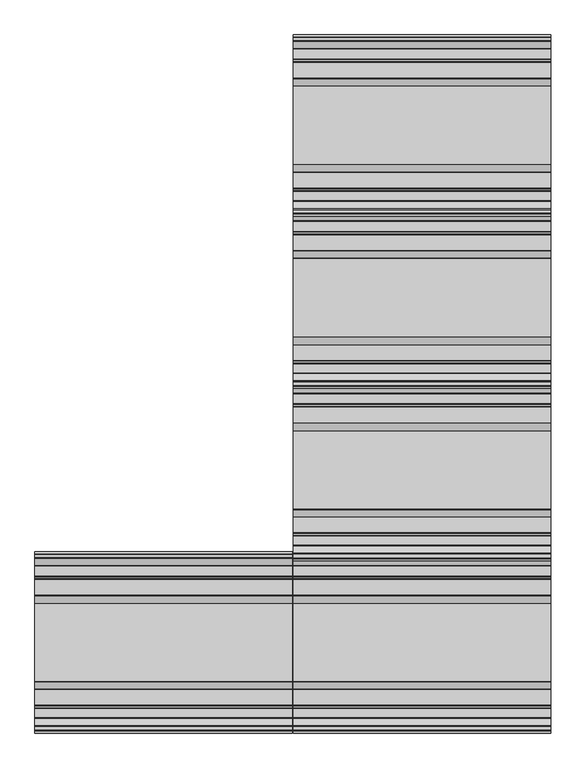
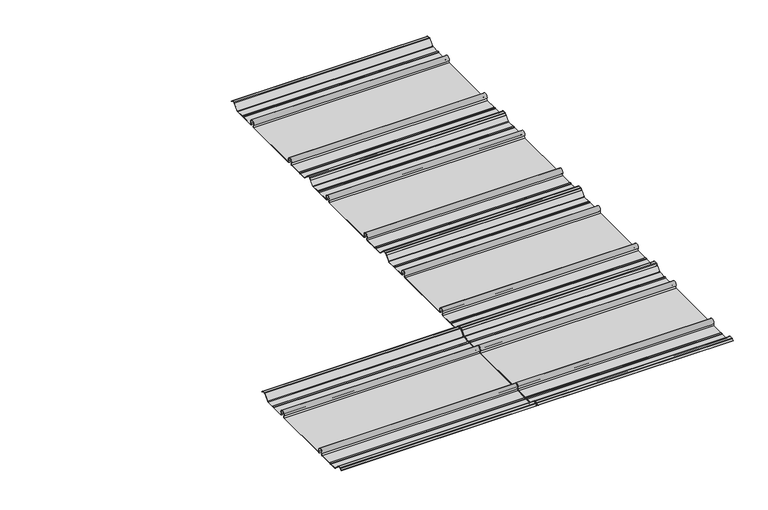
"""IFC4 building model written with IfcOpenShell, lengths in millimetres: proxy geometry, Xlath : Xlath."""

from ifc_helpers import new_model, si_unit, point, frame, frame_2d, origin, place, context, project, spatial, polyline, circle_curve, trimmed, segment, composite_curve, outline, extrude, source, transform, mapped, element, save


def generic_models_f6742b10(model_context):
    return source(origin(), model_context, "Body", "SweptSolid", [
        extrude(outline(composite_curve([segment(polyline([(-816.821536, 17.692427), (-812.8, 13.8209287), (-813.3628134, 13.2581153), (-817.6173305, 17.3539026)]), True, "CONTINUOUS"), segment(trimmed(circle_curve(frame_2d((-819.4934261, 15.4051)), 2.7051), [point((-817.6173305, 17.3539026))], [point((-819.4934261, 18.1102))], True, "CARTESIAN"), True, "CONTINUOUS"), segment(polyline([(-819.4934261, 18.1102), (-826.6817457, 18.1102)]), True, "CONTINUOUS"), segment(trimmed(circle_curve(frame_2d((-826.6817457, 15.4051)), 2.7051), [point((-826.6817457, 18.1102))], [point((-828.6059623, 17.3064039))], True, "CARTESIAN"), True, "CONTINUOUS"), segment(polyline([(-828.6059623, 17.3064039), (-844.7741011, 0.9434226)]), True, "CONTINUOUS"), segment(trimmed(circle_curve(frame_2d((-847.0325712, 3.175)), 3.175), [point((-844.7741011, 0.9434226))], [point((-847.0325712, 0.0))], False, "CARTESIAN"), True, "CONTINUOUS"), segment(polyline([(-847.0325712, 0.0), (-870.1486405, 0.0)]), True, "CONTINUOUS"), segment(trimmed(circle_curve(frame_2d((-870.1486405, 3.175)), 3.175), [point((-870.1486405, 0.0))], [point((-872.1419174, 0.70367))], False, "CARTESIAN"), True, "CONTINUOUS"), segment(trimmed(circle_curve(frame_2d((-874.1351943, -1.7676601)), 3.175), [point((-872.1419174, 0.70367))], [point((-876.1284712, 0.70367))], True, "CARTESIAN"), True, "CONTINUOUS"), segment(trimmed(circle_curve(frame_2d((-878.1217481, 3.175)), 3.175), [point((-876.1284712, 0.70367))], [point((-878.1217481, 0.0))], False, "CARTESIAN"), True, "CONTINUOUS"), segment(polyline([(-878.1217481, 0.0), (-915.39972, 0.0)]), True, "CONTINUOUS"), segment(trimmed(circle_curve(frame_2d((-915.39972, 3.3362305)), 3.3362305), [point((-915.39972, 0.0))], [point((-918.0911698, 5.3076593))], False, "CARTESIAN"), True, "CONTINUOUS"), segment(trimmed(circle_curve(frame_2d((-924.6031627, 10.0775533)), 8.0720469), [point((-918.0911698, 5.3076593))], [point((-931.1151555, 5.3076593))], True, "CARTESIAN"), True, "CONTINUOUS"), segment(trimmed(circle_curve(frame_2d((-933.8066054, 3.3362305)), 3.3362305), [point((-931.1151555, 5.3076593))], [point((-933.8066054, 0.0))], False, "CARTESIAN"), True, "CONTINUOUS"), segment(polyline([(-933.8066054, 0.0), (-1118.8308946, 0.0)]), True, "CONTINUOUS"), segment(trimmed(circle_curve(frame_2d((-1118.8308946, 3.3362305)), 3.3362305), [point((-1118.8308946, 0.0))], [point((-1121.5223445, 5.3076593))], False, "CARTESIAN"), True, "CONTINUOUS"), segment(trimmed(circle_curve(frame_2d((-1128.0343373, 10.0775533)), 8.0720469), [point((-1121.5223445, 5.3076593))], [point((-1134.5463302, 5.3076593))], True, "CARTESIAN"), True, "CONTINUOUS"), segment(trimmed(circle_curve(frame_2d((-1137.23778, 3.3362305)), 3.3362305), [point((-1134.5463302, 5.3076593))], [point((-1137.23778, 0.0))], False, "CARTESIAN"), True, "CONTINUOUS"), segment(polyline([(-1137.23778, 0.0), (-1174.5157519, 0.0)]), True, "CONTINUOUS"), segment(trimmed(circle_curve(frame_2d((-1174.5157519, 3.175)), 3.175), [point((-1174.5157519, 0.0))], [point((-1176.5090288, 0.70367))], False, "CARTESIAN"), True, "CONTINUOUS"), segment(trimmed(circle_curve(frame_2d((-1178.5023057, -1.7676601)), 3.175), [point((-1176.5090288, 0.70367))], [point((-1180.4955826, 0.70367))], True, "CARTESIAN"), True, "CONTINUOUS"), segment(trimmed(circle_curve(frame_2d((-1182.4888595, 3.175)), 3.175), [point((-1180.4955826, 0.70367))], [point((-1182.4888595, 0.0))], False, "CARTESIAN"), True, "CONTINUOUS"), segment(polyline([(-1182.4888595, 0.0), (-1203.8183557, 0.0)]), True, "CONTINUOUS"), segment(trimmed(circle_curve(frame_2d((-1203.8183557, 3.175)), 3.175), [point((-1203.8183557, 0.0))], [point((-1206.0768259, 0.9434226))], False, "CARTESIAN"), True, "CONTINUOUS"), segment(polyline([(-1206.0768259, 0.9434226), (-1222.7092693, 17.7763039)]), True, "CONTINUOUS"), segment(trimmed(circle_curve(frame_2d((-1224.6334859, 15.875)), 2.7051), [point((-1222.7092693, 17.7763039))], [point((-1224.6334859, 18.5801))], True, "CARTESIAN"), True, "CONTINUOUS"), segment(polyline([(-1224.6334859, 18.5801), (-1233.1440739, 18.5801)]), True, "CONTINUOUS"), segment(trimmed(circle_curve(frame_2d((-1233.1440739, 15.875)), 2.7051), [point((-1233.1440739, 18.5801))], [point((-1235.0201695, 17.8238026))], True, "CARTESIAN"), True, "CONTINUOUS"), segment(polyline([(-1235.0201695, 17.8238026), (-1239.2855845, 13.717524), (-1239.8483979, 14.2803374), (-1235.815964, 18.162327)]), True, "CONTINUOUS"), segment(trimmed(circle_curve(frame_2d((-1233.6139739, 15.875)), 3.175), [point((-1235.815964, 18.162327))], [point((-1233.6139739, 19.05))], False, "CARTESIAN"), True, "CONTINUOUS"), segment(polyline([(-1233.6139739, 19.05), (-1224.6334859, 19.05)]), True, "CONTINUOUS"), segment(trimmed(circle_curve(frame_2d((-1224.6334859, 15.875)), 3.175), [point((-1224.6334859, 19.05))], [point((-1222.3750157, 18.1065774))], False, "CARTESIAN"), True, "CONTINUOUS"), segment(polyline([(-1222.3750157, 18.1065774), (-1205.7425723, 1.2736961)]), True, "CONTINUOUS"), segment(trimmed(circle_curve(frame_2d((-1203.8183557, 3.175)), 2.7051), [point((-1205.7425723, 1.2736961))], [point((-1203.8183557, 0.4699))], True, "CARTESIAN"), True, "CONTINUOUS"), segment(polyline([(-1203.8183557, 0.4699), (-1182.6514296, 0.4699)]), True, "CONTINUOUS"), segment(trimmed(circle_curve(frame_2d((-1182.6514296, 3.6449)), 3.175), [point((-1182.6514296, 0.4699))], [point((-1180.7198077, 1.1250862))], True, "CARTESIAN"), True, "CONTINUOUS"), segment(trimmed(circle_curve(frame_2d((-1178.5023057, -1.7676601)), 3.6449), [point((-1180.7198077, 1.1250862))], [point((-1176.2848037, 1.1250862))], False, "CARTESIAN"), True, "CONTINUOUS"), segment(trimmed(circle_curve(frame_2d((-1174.3531818, 3.6449)), 3.175), [point((-1176.2848037, 1.1250862))], [point((-1174.3531818, 0.4699))], True, "CARTESIAN"), True, "CONTINUOUS"), segment(polyline([(-1174.3531818, 0.4699), (-1137.23778, 0.4699)]), True, "CONTINUOUS"), segment(trimmed(circle_curve(frame_2d((-1137.23778, 3.3362305)), 2.8663305), [point((-1137.23778, 0.4699))], [point((-1134.9254144, 5.0299883))], True, "CARTESIAN"), True, "CONTINUOUS"), segment(trimmed(circle_curve(frame_2d((-1128.0343373, 10.0775533)), 8.5419469), [point((-1134.9254144, 5.0299883))], [point((-1121.1432603, 5.0299883))], False, "CARTESIAN"), True, "CONTINUOUS"), segment(trimmed(circle_curve(frame_2d((-1118.8308946, 3.3362305)), 2.8663305), [point((-1121.1432603, 5.0299883))], [point((-1118.8308946, 0.4699))], True, "CARTESIAN"), True, "CONTINUOUS"), segment(polyline([(-1118.8308946, 0.4699), (-933.8066054, 0.4699)]), True, "CONTINUOUS"), segment(trimmed(circle_curve(frame_2d((-933.8066054, 3.3362305)), 2.8663305), [point((-933.8066054, 0.4699))], [point((-931.4942397, 5.0299883))], True, "CARTESIAN"), True, "CONTINUOUS"), segment(trimmed(circle_curve(frame_2d((-924.6031627, 10.0775533)), 8.5419469), [point((-931.4942397, 5.0299883))], [point((-917.7120856, 5.0299883))], False, "CARTESIAN"), True, "CONTINUOUS"), segment(trimmed(circle_curve(frame_2d((-915.39972, 3.3362305)), 2.8663305), [point((-917.7120856, 5.0299883))], [point((-915.39972, 0.4699))], True, "CARTESIAN"), True, "CONTINUOUS"), segment(polyline([(-915.39972, 0.4699), (-878.2843182, 0.4699)]), True, "CONTINUOUS"), segment(trimmed(circle_curve(frame_2d((-878.2843182, 3.6449)), 3.175), [point((-878.2843182, 0.4699))], [point((-876.3526963, 1.1250862))], True, "CARTESIAN"), True, "CONTINUOUS"), segment(trimmed(circle_curve(frame_2d((-874.1351943, -1.7676601)), 3.6449), [point((-876.3526963, 1.1250862))], [point((-871.9176923, 1.1250862))], False, "CARTESIAN"), True, "CONTINUOUS"), segment(trimmed(circle_curve(frame_2d((-869.9860704, 3.6449)), 3.175), [point((-871.9176923, 1.1250862))], [point((-869.9860704, 0.4699))], True, "CARTESIAN"), True, "CONTINUOUS"), segment(polyline([(-869.9860704, 0.4699), (-847.0325712, 0.4699)]), True, "CONTINUOUS"), segment(trimmed(circle_curve(frame_2d((-847.0325712, 3.175)), 2.7051), [point((-847.0325712, 0.4699))], [point((-845.1083547, 1.2736961))], True, "CARTESIAN"), True, "CONTINUOUS"), segment(polyline([(-845.1083547, 1.2736961), (-828.9402159, 17.6366774)]), True, "CONTINUOUS"), segment(trimmed(circle_curve(frame_2d((-826.6817457, 15.4051)), 3.175), [point((-828.9402159, 17.6366774))], [point((-826.6817457, 18.5801))], False, "CARTESIAN"), True, "CONTINUOUS"), segment(polyline([(-826.6817457, 18.5801), (-819.0235261, 18.5801)]), True, "CONTINUOUS"), segment(trimmed(circle_curve(frame_2d((-819.0235261, 15.4051)), 3.175), [point((-819.0235261, 18.5801))], [point((-816.821536, 17.692427))], False, "CARTESIAN"), True, "CONTINUOUS")], self_intersect=False)), frame((1219.2, 0.0, 0.0), z_axis=(1.0, 0.0, 0.0), x_axis=(0.0, 1.0, 0.0)), (0.0, 0.0, 1.0), 606.425),
        extrude(outline(composite_curve([segment(polyline([(-410.421536, 17.692427), (-406.4, 13.8209287), (-406.9628134, 13.2581153), (-411.2173305, 17.3539026)]), True, "CONTINUOUS"), segment(trimmed(circle_curve(frame_2d((-413.0934261, 15.4051)), 2.7051), [point((-411.2173305, 17.3539026))], [point((-413.0934261, 18.1102))], True, "CARTESIAN"), True, "CONTINUOUS"), segment(polyline([(-413.0934261, 18.1102), (-420.2817457, 18.1102)]), True, "CONTINUOUS"), segment(trimmed(circle_curve(frame_2d((-420.2817457, 15.4051)), 2.7051), [point((-420.2817457, 18.1102))], [point((-422.2059623, 17.3064039))], True, "CARTESIAN"), True, "CONTINUOUS"), segment(polyline([(-422.2059623, 17.3064039), (-438.3741011, 0.9434226)]), True, "CONTINUOUS"), segment(trimmed(circle_curve(frame_2d((-440.6325712, 3.175)), 3.175), [point((-438.3741011, 0.9434226))], [point((-440.6325712, 0.0))], False, "CARTESIAN"), True, "CONTINUOUS"), segment(polyline([(-440.6325712, 0.0), (-463.7486405, 0.0)]), True, "CONTINUOUS"), segment(trimmed(circle_curve(frame_2d((-463.7486405, 3.175)), 3.175), [point((-463.7486405, 0.0))], [point((-465.7419174, 0.70367))], False, "CARTESIAN"), True, "CONTINUOUS"), segment(trimmed(circle_curve(frame_2d((-467.7351943, -1.7676601)), 3.175), [point((-465.7419174, 0.70367))], [point((-469.7284712, 0.70367))], True, "CARTESIAN"), True, "CONTINUOUS"), segment(trimmed(circle_curve(frame_2d((-471.7217481, 3.175)), 3.175), [point((-469.7284712, 0.70367))], [point((-471.7217481, 0.0))], False, "CARTESIAN"), True, "CONTINUOUS"), segment(polyline([(-471.7217481, 0.0), (-508.99972, 0.0)]), True, "CONTINUOUS"), segment(trimmed(circle_curve(frame_2d((-508.99972, 3.3362305)), 3.3362305), [point((-508.99972, 0.0))], [point((-511.6911698, 5.3076593))], False, "CARTESIAN"), True, "CONTINUOUS"), segment(trimmed(circle_curve(frame_2d((-518.2031627, 10.0775533)), 8.0720469), [point((-511.6911698, 5.3076593))], [point((-524.7151555, 5.3076593))], True, "CARTESIAN"), True, "CONTINUOUS"), segment(trimmed(circle_curve(frame_2d((-527.4066054, 3.3362305)), 3.3362305), [point((-524.7151555, 5.3076593))], [point((-527.4066054, 0.0))], False, "CARTESIAN"), True, "CONTINUOUS"), segment(polyline([(-527.4066054, 0.0), (-712.4308946, 0.0)]), True, "CONTINUOUS"), segment(trimmed(circle_curve(frame_2d((-712.4308946, 3.3362305)), 3.3362305), [point((-712.4308946, 0.0))], [point((-715.1223445, 5.3076593))], False, "CARTESIAN"), True, "CONTINUOUS"), segment(trimmed(circle_curve(frame_2d((-721.6343373, 10.0775533)), 8.0720469), [point((-715.1223445, 5.3076593))], [point((-728.1463302, 5.3076593))], True, "CARTESIAN"), True, "CONTINUOUS"), segment(trimmed(circle_curve(frame_2d((-730.83778, 3.3362305)), 3.3362305), [point((-728.1463302, 5.3076593))], [point((-730.83778, 0.0))], False, "CARTESIAN"), True, "CONTINUOUS"), segment(polyline([(-730.83778, 0.0), (-768.1157519, 0.0)]), True, "CONTINUOUS"), segment(trimmed(circle_curve(frame_2d((-768.1157519, 3.175)), 3.175), [point((-768.1157519, 0.0))], [point((-770.1090288, 0.70367))], False, "CARTESIAN"), True, "CONTINUOUS"), segment(trimmed(circle_curve(frame_2d((-772.1023057, -1.7676601)), 3.175), [point((-770.1090288, 0.70367))], [point((-774.0955826, 0.70367))], True, "CARTESIAN"), True, "CONTINUOUS"), segment(trimmed(circle_curve(frame_2d((-776.0888595, 3.175)), 3.175), [point((-774.0955826, 0.70367))], [point((-776.0888595, 0.0))], False, "CARTESIAN"), True, "CONTINUOUS"), segment(polyline([(-776.0888595, 0.0), (-797.4183557, 0.0)]), True, "CONTINUOUS"), segment(trimmed(circle_curve(frame_2d((-797.4183557, 3.175)), 3.175), [point((-797.4183557, 0.0))], [point((-799.6768259, 0.9434226))], False, "CARTESIAN"), True, "CONTINUOUS"), segment(polyline([(-799.6768259, 0.9434226), (-816.3092693, 17.7763039)]), True, "CONTINUOUS"), segment(trimmed(circle_curve(frame_2d((-818.2334859, 15.875)), 2.7051), [point((-816.3092693, 17.7763039))], [point((-818.2334859, 18.5801))], True, "CARTESIAN"), True, "CONTINUOUS"), segment(polyline([(-818.2334859, 18.5801), (-826.7440739, 18.5801)]), True, "CONTINUOUS"), segment(trimmed(circle_curve(frame_2d((-826.7440739, 15.875)), 2.7051), [point((-826.7440739, 18.5801))], [point((-828.6201695, 17.8238026))], True, "CARTESIAN"), True, "CONTINUOUS"), segment(polyline([(-828.6201695, 17.8238026), (-832.8855845, 13.717524), (-833.4483979, 14.2803374), (-829.415964, 18.162327)]), True, "CONTINUOUS"), segment(trimmed(circle_curve(frame_2d((-827.2139739, 15.875)), 3.175), [point((-829.415964, 18.162327))], [point((-827.2139739, 19.05))], False, "CARTESIAN"), True, "CONTINUOUS"), segment(polyline([(-827.2139739, 19.05), (-818.2334859, 19.05)]), True, "CONTINUOUS"), segment(trimmed(circle_curve(frame_2d((-818.2334859, 15.875)), 3.175), [point((-818.2334859, 19.05))], [point((-815.9750157, 18.1065774))], False, "CARTESIAN"), True, "CONTINUOUS"), segment(polyline([(-815.9750157, 18.1065774), (-799.3425723, 1.2736961)]), True, "CONTINUOUS"), segment(trimmed(circle_curve(frame_2d((-797.4183557, 3.175)), 2.7051), [point((-799.3425723, 1.2736961))], [point((-797.4183557, 0.4699))], True, "CARTESIAN"), True, "CONTINUOUS"), segment(polyline([(-797.4183557, 0.4699), (-776.2514296, 0.4699)]), True, "CONTINUOUS"), segment(trimmed(circle_curve(frame_2d((-776.2514296, 3.6449)), 3.175), [point((-776.2514296, 0.4699))], [point((-774.3198077, 1.1250862))], True, "CARTESIAN"), True, "CONTINUOUS"), segment(trimmed(circle_curve(frame_2d((-772.1023057, -1.7676601)), 3.6449), [point((-774.3198077, 1.1250862))], [point((-769.8848037, 1.1250862))], False, "CARTESIAN"), True, "CONTINUOUS"), segment(trimmed(circle_curve(frame_2d((-767.9531818, 3.6449)), 3.175), [point((-769.8848037, 1.1250862))], [point((-767.9531818, 0.4699))], True, "CARTESIAN"), True, "CONTINUOUS"), segment(polyline([(-767.9531818, 0.4699), (-730.83778, 0.4699)]), True, "CONTINUOUS"), segment(trimmed(circle_curve(frame_2d((-730.83778, 3.3362305)), 2.8663305), [point((-730.83778, 0.4699))], [point((-728.5254144, 5.0299883))], True, "CARTESIAN"), True, "CONTINUOUS"), segment(trimmed(circle_curve(frame_2d((-721.6343373, 10.0775533)), 8.5419469), [point((-728.5254144, 5.0299883))], [point((-714.7432603, 5.0299883))], False, "CARTESIAN"), True, "CONTINUOUS"), segment(trimmed(circle_curve(frame_2d((-712.4308946, 3.3362305)), 2.8663305), [point((-714.7432603, 5.0299883))], [point((-712.4308946, 0.4699))], True, "CARTESIAN"), True, "CONTINUOUS"), segment(polyline([(-712.4308946, 0.4699), (-527.4066054, 0.4699)]), True, "CONTINUOUS"), segment(trimmed(circle_curve(frame_2d((-527.4066054, 3.3362305)), 2.8663305), [point((-527.4066054, 0.4699))], [point((-525.0942397, 5.0299883))], True, "CARTESIAN"), True, "CONTINUOUS"), segment(trimmed(circle_curve(frame_2d((-518.2031627, 10.0775533)), 8.5419469), [point((-525.0942397, 5.0299883))], [point((-511.3120856, 5.0299883))], False, "CARTESIAN"), True, "CONTINUOUS"), segment(trimmed(circle_curve(frame_2d((-508.99972, 3.3362305)), 2.8663305), [point((-511.3120856, 5.0299883))], [point((-508.99972, 0.4699))], True, "CARTESIAN"), True, "CONTINUOUS"), segment(polyline([(-508.99972, 0.4699), (-471.8843182, 0.4699)]), True, "CONTINUOUS"), segment(trimmed(circle_curve(frame_2d((-471.8843182, 3.6449)), 3.175), [point((-471.8843182, 0.4699))], [point((-469.9526963, 1.1250862))], True, "CARTESIAN"), True, "CONTINUOUS"), segment(trimmed(circle_curve(frame_2d((-467.7351943, -1.7676601)), 3.6449), [point((-469.9526963, 1.1250862))], [point((-465.5176923, 1.1250862))], False, "CARTESIAN"), True, "CONTINUOUS"), segment(trimmed(circle_curve(frame_2d((-463.5860704, 3.6449)), 3.175), [point((-465.5176923, 1.1250862))], [point((-463.5860704, 0.4699))], True, "CARTESIAN"), True, "CONTINUOUS"), segment(polyline([(-463.5860704, 0.4699), (-440.6325712, 0.4699)]), True, "CONTINUOUS"), segment(trimmed(circle_curve(frame_2d((-440.6325712, 3.175)), 2.7051), [point((-440.6325712, 0.4699))], [point((-438.7083547, 1.2736961))], True, "CARTESIAN"), True, "CONTINUOUS"), segment(polyline([(-438.7083547, 1.2736961), (-422.5402159, 17.6366774)]), True, "CONTINUOUS"), segment(trimmed(circle_curve(frame_2d((-420.2817457, 15.4051)), 3.175), [point((-422.5402159, 17.6366774))], [point((-420.2817457, 18.5801))], False, "CARTESIAN"), True, "CONTINUOUS"), segment(polyline([(-420.2817457, 18.5801), (-412.6235261, 18.5801)]), True, "CONTINUOUS"), segment(trimmed(circle_curve(frame_2d((-412.6235261, 15.4051)), 3.175), [point((-412.6235261, 18.5801))], [point((-410.421536, 17.692427))], False, "CARTESIAN"), True, "CONTINUOUS")], self_intersect=False)), frame((1219.2, 0.0, 0.0), z_axis=(1.0, 0.0, 0.0), x_axis=(0.0, 1.0, 0.0)), (0.0, 0.0, 1.0), 606.425),
        extrude(outline(composite_curve([segment(polyline([(-4.021536, 17.692427), (0.0, 13.8209287), (-0.5628134, 13.2581153), (-4.8173305, 17.3539026)]), True, "CONTINUOUS"), segment(trimmed(circle_curve(frame_2d((-6.6934261, 15.4051)), 2.7051), [point((-4.8173305, 17.3539026))], [point((-6.6934261, 18.1102))], True, "CARTESIAN"), True, "CONTINUOUS"), segment(polyline([(-6.6934261, 18.1102), (-13.8817457, 18.1102)]), True, "CONTINUOUS"), segment(trimmed(circle_curve(frame_2d((-13.8817457, 15.4051)), 2.7051), [point((-13.8817457, 18.1102))], [point((-15.8059623, 17.3064039))], True, "CARTESIAN"), True, "CONTINUOUS"), segment(polyline([(-15.8059623, 17.3064039), (-31.9741011, 0.9434226)]), True, "CONTINUOUS"), segment(trimmed(circle_curve(frame_2d((-34.2325712, 3.175)), 3.175), [point((-31.9741011, 0.9434226))], [point((-34.2325712, 0.0))], False, "CARTESIAN"), True, "CONTINUOUS"), segment(polyline([(-34.2325712, 0.0), (-57.3486405, 0.0)]), True, "CONTINUOUS"), segment(trimmed(circle_curve(frame_2d((-57.3486405, 3.175)), 3.175), [point((-57.3486405, 0.0))], [point((-59.3419174, 0.70367))], False, "CARTESIAN"), True, "CONTINUOUS"), segment(trimmed(circle_curve(frame_2d((-61.3351943, -1.7676601)), 3.175), [point((-59.3419174, 0.70367))], [point((-63.3284712, 0.70367))], True, "CARTESIAN"), True, "CONTINUOUS"), segment(trimmed(circle_curve(frame_2d((-65.3217481, 3.175)), 3.175), [point((-63.3284712, 0.70367))], [point((-65.3217481, 0.0))], False, "CARTESIAN"), True, "CONTINUOUS"), segment(polyline([(-65.3217481, 0.0), (-102.59972, 0.0)]), True, "CONTINUOUS"), segment(trimmed(circle_curve(frame_2d((-102.59972, 3.3362305)), 3.3362305), [point((-102.59972, 0.0))], [point((-105.2911698, 5.3076593))], False, "CARTESIAN"), True, "CONTINUOUS"), segment(trimmed(circle_curve(frame_2d((-111.8031627, 10.0775533)), 8.0720469), [point((-105.2911698, 5.3076593))], [point((-118.3151555, 5.3076593))], True, "CARTESIAN"), True, "CONTINUOUS"), segment(trimmed(circle_curve(frame_2d((-121.0066054, 3.3362305)), 3.3362305), [point((-118.3151555, 5.3076593))], [point((-121.0066054, 0.0))], False, "CARTESIAN"), True, "CONTINUOUS"), segment(polyline([(-121.0066054, 0.0), (-306.0308946, 0.0)]), True, "CONTINUOUS"), segment(trimmed(circle_curve(frame_2d((-306.0308946, 3.3362305)), 3.3362305), [point((-306.0308946, 0.0))], [point((-308.7223445, 5.3076593))], False, "CARTESIAN"), True, "CONTINUOUS"), segment(trimmed(circle_curve(frame_2d((-315.2343373, 10.0775533)), 8.0720469), [point((-308.7223445, 5.3076593))], [point((-321.7463302, 5.3076593))], True, "CARTESIAN"), True, "CONTINUOUS"), segment(trimmed(circle_curve(frame_2d((-324.43778, 3.3362305)), 3.3362305), [point((-321.7463302, 5.3076593))], [point((-324.43778, 0.0))], False, "CARTESIAN"), True, "CONTINUOUS"), segment(polyline([(-324.43778, 0.0), (-361.7157519, 0.0)]), True, "CONTINUOUS"), segment(trimmed(circle_curve(frame_2d((-361.7157519, 3.175)), 3.175), [point((-361.7157519, 0.0))], [point((-363.7090288, 0.70367))], False, "CARTESIAN"), True, "CONTINUOUS"), segment(trimmed(circle_curve(frame_2d((-365.7023057, -1.7676601)), 3.175), [point((-363.7090288, 0.70367))], [point((-367.6955826, 0.70367))], True, "CARTESIAN"), True, "CONTINUOUS"), segment(trimmed(circle_curve(frame_2d((-369.6888595, 3.175)), 3.175), [point((-367.6955826, 0.70367))], [point((-369.6888595, 0.0))], False, "CARTESIAN"), True, "CONTINUOUS"), segment(polyline([(-369.6888595, 0.0), (-391.0183557, 0.0)]), True, "CONTINUOUS"), segment(trimmed(circle_curve(frame_2d((-391.0183557, 3.175)), 3.175), [point((-391.0183557, 0.0))], [point((-393.2768259, 0.9434226))], False, "CARTESIAN"), True, "CONTINUOUS"), segment(polyline([(-393.2768259, 0.9434226), (-409.9092693, 17.7763039)]), True, "CONTINUOUS"), segment(trimmed(circle_curve(frame_2d((-411.8334859, 15.875)), 2.7051), [point((-409.9092693, 17.7763039))], [point((-411.8334859, 18.5801))], True, "CARTESIAN"), True, "CONTINUOUS"), segment(polyline([(-411.8334859, 18.5801), (-420.3440739, 18.5801)]), True, "CONTINUOUS"), segment(trimmed(circle_curve(frame_2d((-420.3440739, 15.875)), 2.7051), [point((-420.3440739, 18.5801))], [point((-422.2201695, 17.8238026))], True, "CARTESIAN"), True, "CONTINUOUS"), segment(polyline([(-422.2201695, 17.8238026), (-426.4855845, 13.717524), (-427.0483979, 14.2803374), (-423.015964, 18.162327)]), True, "CONTINUOUS"), segment(trimmed(circle_curve(frame_2d((-420.8139739, 15.875)), 3.175), [point((-423.015964, 18.162327))], [point((-420.8139739, 19.05))], False, "CARTESIAN"), True, "CONTINUOUS"), segment(polyline([(-420.8139739, 19.05), (-411.8334859, 19.05)]), True, "CONTINUOUS"), segment(trimmed(circle_curve(frame_2d((-411.8334859, 15.875)), 3.175), [point((-411.8334859, 19.05))], [point((-409.5750157, 18.1065774))], False, "CARTESIAN"), True, "CONTINUOUS"), segment(polyline([(-409.5750157, 18.1065774), (-392.9425723, 1.2736961)]), True, "CONTINUOUS"), segment(trimmed(circle_curve(frame_2d((-391.0183557, 3.175)), 2.7051), [point((-392.9425723, 1.2736961))], [point((-391.0183557, 0.4699))], True, "CARTESIAN"), True, "CONTINUOUS"), segment(polyline([(-391.0183557, 0.4699), (-369.8514296, 0.4699)]), True, "CONTINUOUS"), segment(trimmed(circle_curve(frame_2d((-369.8514296, 3.6449)), 3.175), [point((-369.8514296, 0.4699))], [point((-367.9198077, 1.1250862))], True, "CARTESIAN"), True, "CONTINUOUS"), segment(trimmed(circle_curve(frame_2d((-365.7023057, -1.7676601)), 3.6449), [point((-367.9198077, 1.1250862))], [point((-363.4848037, 1.1250862))], False, "CARTESIAN"), True, "CONTINUOUS"), segment(trimmed(circle_curve(frame_2d((-361.5531818, 3.6449)), 3.175), [point((-363.4848037, 1.1250862))], [point((-361.5531818, 0.4699))], True, "CARTESIAN"), True, "CONTINUOUS"), segment(polyline([(-361.5531818, 0.4699), (-324.43778, 0.4699)]), True, "CONTINUOUS"), segment(trimmed(circle_curve(frame_2d((-324.43778, 3.3362305)), 2.8663305), [point((-324.43778, 0.4699))], [point((-322.1254144, 5.0299883))], True, "CARTESIAN"), True, "CONTINUOUS"), segment(trimmed(circle_curve(frame_2d((-315.2343373, 10.0775533)), 8.5419469), [point((-322.1254144, 5.0299883))], [point((-308.3432603, 5.0299883))], False, "CARTESIAN"), True, "CONTINUOUS"), segment(trimmed(circle_curve(frame_2d((-306.0308946, 3.3362305)), 2.8663305), [point((-308.3432603, 5.0299883))], [point((-306.0308946, 0.4699))], True, "CARTESIAN"), True, "CONTINUOUS"), segment(polyline([(-306.0308946, 0.4699), (-121.0066054, 0.4699)]), True, "CONTINUOUS"), segment(trimmed(circle_curve(frame_2d((-121.0066054, 3.3362305)), 2.8663305), [point((-121.0066054, 0.4699))], [point((-118.6942397, 5.0299883))], True, "CARTESIAN"), True, "CONTINUOUS"), segment(trimmed(circle_curve(frame_2d((-111.8031627, 10.0775533)), 8.5419469), [point((-118.6942397, 5.0299883))], [point((-104.9120856, 5.0299883))], False, "CARTESIAN"), True, "CONTINUOUS"), segment(trimmed(circle_curve(frame_2d((-102.59972, 3.3362305)), 2.8663305), [point((-104.9120856, 5.0299883))], [point((-102.59972, 0.4699))], True, "CARTESIAN"), True, "CONTINUOUS"), segment(polyline([(-102.59972, 0.4699), (-65.4843182, 0.4699)]), True, "CONTINUOUS"), segment(trimmed(circle_curve(frame_2d((-65.4843182, 3.6449)), 3.175), [point((-65.4843182, 0.4699))], [point((-63.5526963, 1.1250862))], True, "CARTESIAN"), True, "CONTINUOUS"), segment(trimmed(circle_curve(frame_2d((-61.3351943, -1.7676601)), 3.6449), [point((-63.5526963, 1.1250862))], [point((-59.1176923, 1.1250862))], False, "CARTESIAN"), True, "CONTINUOUS"), segment(trimmed(circle_curve(frame_2d((-57.1860704, 3.6449)), 3.175), [point((-59.1176923, 1.1250862))], [point((-57.1860704, 0.4699))], True, "CARTESIAN"), True, "CONTINUOUS"), segment(polyline([(-57.1860704, 0.4699), (-34.2325712, 0.4699)]), True, "CONTINUOUS"), segment(trimmed(circle_curve(frame_2d((-34.2325712, 3.175)), 2.7051), [point((-34.2325712, 0.4699))], [point((-32.3083547, 1.2736961))], True, "CARTESIAN"), True, "CONTINUOUS"), segment(polyline([(-32.3083547, 1.2736961), (-16.1402159, 17.6366774)]), True, "CONTINUOUS"), segment(trimmed(circle_curve(frame_2d((-13.8817457, 15.4051)), 3.175), [point((-16.1402159, 17.6366774))], [point((-13.8817457, 18.5801))], False, "CARTESIAN"), True, "CONTINUOUS"), segment(polyline([(-13.8817457, 18.5801), (-6.2235261, 18.5801)]), True, "CONTINUOUS"), segment(trimmed(circle_curve(frame_2d((-6.2235261, 15.4051)), 3.175), [point((-6.2235261, 18.5801))], [point((-4.021536, 17.692427))], False, "CARTESIAN"), True, "CONTINUOUS")], self_intersect=False)), frame((1219.2, 0.0, 0.0), z_axis=(1.0, 0.0, 0.0), x_axis=(0.0, 1.0, 0.0)), (0.0, 0.0, 1.0), 606.425),
        extrude(outline(composite_curve([segment(polyline([(-1223.221536, 17.692427), (-1219.2, 13.8209287), (-1219.7628134, 13.2581153), (-1224.0173305, 17.3539026)]), True, "CONTINUOUS"), segment(trimmed(circle_curve(frame_2d((-1225.8934261, 15.4051)), 2.7051), [point((-1224.0173305, 17.3539026))], [point((-1225.8934261, 18.1102))], True, "CARTESIAN"), True, "CONTINUOUS"), segment(polyline([(-1225.8934261, 18.1102), (-1233.0817457, 18.1102)]), True, "CONTINUOUS"), segment(trimmed(circle_curve(frame_2d((-1233.0817457, 15.4051)), 2.7051), [point((-1233.0817457, 18.1102))], [point((-1235.0059623, 17.3064039))], True, "CARTESIAN"), True, "CONTINUOUS"), segment(polyline([(-1235.0059623, 17.3064039), (-1251.1741011, 0.9434226)]), True, "CONTINUOUS"), segment(trimmed(circle_curve(frame_2d((-1253.4325712, 3.175)), 3.175), [point((-1251.1741011, 0.9434226))], [point((-1253.4325712, 0.0))], False, "CARTESIAN"), True, "CONTINUOUS"), segment(polyline([(-1253.4325712, 0.0), (-1276.5486405, 0.0)]), True, "CONTINUOUS"), segment(trimmed(circle_curve(frame_2d((-1276.5486405, 3.175)), 3.175), [point((-1276.5486405, 0.0))], [point((-1278.5419174, 0.70367))], False, "CARTESIAN"), True, "CONTINUOUS"), segment(trimmed(circle_curve(frame_2d((-1280.5351943, -1.7676601)), 3.175), [point((-1278.5419174, 0.70367))], [point((-1282.5284712, 0.70367))], True, "CARTESIAN"), True, "CONTINUOUS"), segment(trimmed(circle_curve(frame_2d((-1284.5217481, 3.175)), 3.175), [point((-1282.5284712, 0.70367))], [point((-1284.5217481, 0.0))], False, "CARTESIAN"), True, "CONTINUOUS"), segment(polyline([(-1284.5217481, 0.0), (-1321.79972, 0.0)]), True, "CONTINUOUS"), segment(trimmed(circle_curve(frame_2d((-1321.79972, 3.3362305)), 3.3362305), [point((-1321.79972, 0.0))], [point((-1324.4911698, 5.3076593))], False, "CARTESIAN"), True, "CONTINUOUS"), segment(trimmed(circle_curve(frame_2d((-1331.0031627, 10.0775533)), 8.0720469), [point((-1324.4911698, 5.3076593))], [point((-1337.5151555, 5.3076593))], True, "CARTESIAN"), True, "CONTINUOUS"), segment(trimmed(circle_curve(frame_2d((-1340.2066054, 3.3362305)), 3.3362305), [point((-1337.5151555, 5.3076593))], [point((-1340.2066054, 0.0))], False, "CARTESIAN"), True, "CONTINUOUS"), segment(polyline([(-1340.2066054, 0.0), (-1525.2308946, 0.0)]), True, "CONTINUOUS"), segment(trimmed(circle_curve(frame_2d((-1525.2308946, 3.3362305)), 3.3362305), [point((-1525.2308946, 0.0))], [point((-1527.9223445, 5.3076593))], False, "CARTESIAN"), True, "CONTINUOUS"), segment(trimmed(circle_curve(frame_2d((-1534.4343373, 10.0775533)), 8.0720469), [point((-1527.9223445, 5.3076593))], [point((-1540.9463302, 5.3076593))], True, "CARTESIAN"), True, "CONTINUOUS"), segment(trimmed(circle_curve(frame_2d((-1543.63778, 3.3362305)), 3.3362305), [point((-1540.9463302, 5.3076593))], [point((-1543.63778, 0.0))], False, "CARTESIAN"), True, "CONTINUOUS"), segment(polyline([(-1543.63778, 0.0), (-1580.9157519, 0.0)]), True, "CONTINUOUS"), segment(trimmed(circle_curve(frame_2d((-1580.9157519, 3.175)), 3.175), [point((-1580.9157519, 0.0))], [point((-1582.9090288, 0.70367))], False, "CARTESIAN"), True, "CONTINUOUS"), segment(trimmed(circle_curve(frame_2d((-1584.9023057, -1.7676601)), 3.175), [point((-1582.9090288, 0.70367))], [point((-1586.8955826, 0.70367))], True, "CARTESIAN"), True, "CONTINUOUS"), segment(trimmed(circle_curve(frame_2d((-1588.8888595, 3.175)), 3.175), [point((-1586.8955826, 0.70367))], [point((-1588.8888595, 0.0))], False, "CARTESIAN"), True, "CONTINUOUS"), segment(polyline([(-1588.8888595, 0.0), (-1610.2183557, 0.0)]), True, "CONTINUOUS"), segment(trimmed(circle_curve(frame_2d((-1610.2183557, 3.175)), 3.175), [point((-1610.2183557, 0.0))], [point((-1612.4768259, 0.9434226))], False, "CARTESIAN"), True, "CONTINUOUS"), segment(polyline([(-1612.4768259, 0.9434226), (-1629.1092693, 17.7763039)]), True, "CONTINUOUS"), segment(trimmed(circle_curve(frame_2d((-1631.0334859, 15.875)), 2.7051), [point((-1629.1092693, 17.7763039))], [point((-1631.0334859, 18.5801))], True, "CARTESIAN"), True, "CONTINUOUS"), segment(polyline([(-1631.0334859, 18.5801), (-1639.5440739, 18.5801)]), True, "CONTINUOUS"), segment(trimmed(circle_curve(frame_2d((-1639.5440739, 15.875)), 2.7051), [point((-1639.5440739, 18.5801))], [point((-1641.4201695, 17.8238026))], True, "CARTESIAN"), True, "CONTINUOUS"), segment(polyline([(-1641.4201695, 17.8238026), (-1645.6855845, 13.717524), (-1646.2483979, 14.2803374), (-1642.215964, 18.162327)]), True, "CONTINUOUS"), segment(trimmed(circle_curve(frame_2d((-1640.0139739, 15.875)), 3.175), [point((-1642.215964, 18.162327))], [point((-1640.0139739, 19.05))], False, "CARTESIAN"), True, "CONTINUOUS"), segment(polyline([(-1640.0139739, 19.05), (-1631.0334859, 19.05)]), True, "CONTINUOUS"), segment(trimmed(circle_curve(frame_2d((-1631.0334859, 15.875)), 3.175), [point((-1631.0334859, 19.05))], [point((-1628.7750157, 18.1065774))], False, "CARTESIAN"), True, "CONTINUOUS"), segment(polyline([(-1628.7750157, 18.1065774), (-1612.1425723, 1.2736961)]), True, "CONTINUOUS"), segment(trimmed(circle_curve(frame_2d((-1610.2183557, 3.175)), 2.7051), [point((-1612.1425723, 1.2736961))], [point((-1610.2183557, 0.4699))], True, "CARTESIAN"), True, "CONTINUOUS"), segment(polyline([(-1610.2183557, 0.4699), (-1589.0514296, 0.4699)]), True, "CONTINUOUS"), segment(trimmed(circle_curve(frame_2d((-1589.0514296, 3.6449)), 3.175), [point((-1589.0514296, 0.4699))], [point((-1587.1198077, 1.1250862))], True, "CARTESIAN"), True, "CONTINUOUS"), segment(trimmed(circle_curve(frame_2d((-1584.9023057, -1.7676601)), 3.6449), [point((-1587.1198077, 1.1250862))], [point((-1582.6848037, 1.1250862))], False, "CARTESIAN"), True, "CONTINUOUS"), segment(trimmed(circle_curve(frame_2d((-1580.7531818, 3.6449)), 3.175), [point((-1582.6848037, 1.1250862))], [point((-1580.7531818, 0.4699))], True, "CARTESIAN"), True, "CONTINUOUS"), segment(polyline([(-1580.7531818, 0.4699), (-1543.63778, 0.4699)]), True, "CONTINUOUS"), segment(trimmed(circle_curve(frame_2d((-1543.63778, 3.3362305)), 2.8663305), [point((-1543.63778, 0.4699))], [point((-1541.3254144, 5.0299883))], True, "CARTESIAN"), True, "CONTINUOUS"), segment(trimmed(circle_curve(frame_2d((-1534.4343373, 10.0775533)), 8.5419469), [point((-1541.3254144, 5.0299883))], [point((-1527.5432603, 5.0299883))], False, "CARTESIAN"), True, "CONTINUOUS"), segment(trimmed(circle_curve(frame_2d((-1525.2308946, 3.3362305)), 2.8663305), [point((-1527.5432603, 5.0299883))], [point((-1525.2308946, 0.4699))], True, "CARTESIAN"), True, "CONTINUOUS"), segment(polyline([(-1525.2308946, 0.4699), (-1340.2066054, 0.4699)]), True, "CONTINUOUS"), segment(trimmed(circle_curve(frame_2d((-1340.2066054, 3.3362305)), 2.8663305), [point((-1340.2066054, 0.4699))], [point((-1337.8942397, 5.0299883))], True, "CARTESIAN"), True, "CONTINUOUS"), segment(trimmed(circle_curve(frame_2d((-1331.0031627, 10.0775533)), 8.5419469), [point((-1337.8942397, 5.0299883))], [point((-1324.1120856, 5.0299883))], False, "CARTESIAN"), True, "CONTINUOUS"), segment(trimmed(circle_curve(frame_2d((-1321.79972, 3.3362305)), 2.8663305), [point((-1324.1120856, 5.0299883))], [point((-1321.79972, 0.4699))], True, "CARTESIAN"), True, "CONTINUOUS"), segment(polyline([(-1321.79972, 0.4699), (-1284.6843182, 0.4699)]), True, "CONTINUOUS"), segment(trimmed(circle_curve(frame_2d((-1284.6843182, 3.6449)), 3.175), [point((-1284.6843182, 0.4699))], [point((-1282.7526963, 1.1250862))], True, "CARTESIAN"), True, "CONTINUOUS"), segment(trimmed(circle_curve(frame_2d((-1280.5351943, -1.7676601)), 3.6449), [point((-1282.7526963, 1.1250862))], [point((-1278.3176923, 1.1250862))], False, "CARTESIAN"), True, "CONTINUOUS"), segment(trimmed(circle_curve(frame_2d((-1276.3860704, 3.6449)), 3.175), [point((-1278.3176923, 1.1250862))], [point((-1276.3860704, 0.4699))], True, "CARTESIAN"), True, "CONTINUOUS"), segment(polyline([(-1276.3860704, 0.4699), (-1253.4325712, 0.4699)]), True, "CONTINUOUS"), segment(trimmed(circle_curve(frame_2d((-1253.4325712, 3.175)), 2.7051), [point((-1253.4325712, 0.4699))], [point((-1251.5083547, 1.2736961))], True, "CARTESIAN"), True, "CONTINUOUS"), segment(polyline([(-1251.5083547, 1.2736961), (-1235.3402159, 17.6366774)]), True, "CONTINUOUS"), segment(trimmed(circle_curve(frame_2d((-1233.0817457, 15.4051)), 3.175), [point((-1235.3402159, 17.6366774))], [point((-1233.0817457, 18.5801))], False, "CARTESIAN"), True, "CONTINUOUS"), segment(polyline([(-1233.0817457, 18.5801), (-1225.4235261, 18.5801)]), True, "CONTINUOUS"), segment(trimmed(circle_curve(frame_2d((-1225.4235261, 15.4051)), 3.175), [point((-1225.4235261, 18.5801))], [point((-1223.221536, 17.692427))], False, "CARTESIAN"), True, "CONTINUOUS")], self_intersect=False)), frame((1219.2, 0.0, 0.0), z_axis=(1.0, 0.0, 0.0), x_axis=(0.0, 1.0, 0.0)), (0.0, 0.0, 1.0), 606.425),
        extrude(outline(composite_curve([segment(polyline([(-1223.221536, 17.692427), (-1219.2, 13.8209287), (-1219.7628134, 13.2581153), (-1224.0173305, 17.3539026)]), True, "CONTINUOUS"), segment(trimmed(circle_curve(frame_2d((-1225.8934261, 15.4051)), 2.7051), [point((-1224.0173305, 17.3539026))], [point((-1225.8934261, 18.1102))], True, "CARTESIAN"), True, "CONTINUOUS"), segment(polyline([(-1225.8934261, 18.1102), (-1233.0817457, 18.1102)]), True, "CONTINUOUS"), segment(trimmed(circle_curve(frame_2d((-1233.0817457, 15.4051)), 2.7051), [point((-1233.0817457, 18.1102))], [point((-1235.0059623, 17.3064039))], True, "CARTESIAN"), True, "CONTINUOUS"), segment(polyline([(-1235.0059623, 17.3064039), (-1251.1741011, 0.9434226)]), True, "CONTINUOUS"), segment(trimmed(circle_curve(frame_2d((-1253.4325712, 3.175)), 3.175), [point((-1251.1741011, 0.9434226))], [point((-1253.4325712, 0.0))], False, "CARTESIAN"), True, "CONTINUOUS"), segment(polyline([(-1253.4325712, 0.0), (-1276.5486405, 0.0)]), True, "CONTINUOUS"), segment(trimmed(circle_curve(frame_2d((-1276.5486405, 3.175)), 3.175), [point((-1276.5486405, 0.0))], [point((-1278.5419174, 0.70367))], False, "CARTESIAN"), True, "CONTINUOUS"), segment(trimmed(circle_curve(frame_2d((-1280.5351943, -1.7676601)), 3.175), [point((-1278.5419174, 0.70367))], [point((-1282.5284712, 0.70367))], True, "CARTESIAN"), True, "CONTINUOUS"), segment(trimmed(circle_curve(frame_2d((-1284.5217481, 3.175)), 3.175), [point((-1282.5284712, 0.70367))], [point((-1284.5217481, 0.0))], False, "CARTESIAN"), True, "CONTINUOUS"), segment(polyline([(-1284.5217481, 0.0), (-1321.79972, 0.0)]), True, "CONTINUOUS"), segment(trimmed(circle_curve(frame_2d((-1321.79972, 3.3362305)), 3.3362305), [point((-1321.79972, 0.0))], [point((-1324.4911698, 5.3076593))], False, "CARTESIAN"), True, "CONTINUOUS"), segment(trimmed(circle_curve(frame_2d((-1331.0031627, 10.0775533)), 8.0720469), [point((-1324.4911698, 5.3076593))], [point((-1337.5151555, 5.3076593))], True, "CARTESIAN"), True, "CONTINUOUS"), segment(trimmed(circle_curve(frame_2d((-1340.2066054, 3.3362305)), 3.3362305), [point((-1337.5151555, 5.3076593))], [point((-1340.2066054, 0.0))], False, "CARTESIAN"), True, "CONTINUOUS"), segment(polyline([(-1340.2066054, 0.0), (-1525.2308946, 0.0)]), True, "CONTINUOUS"), segment(trimmed(circle_curve(frame_2d((-1525.2308946, 3.3362305)), 3.3362305), [point((-1525.2308946, 0.0))], [point((-1527.9223445, 5.3076593))], False, "CARTESIAN"), True, "CONTINUOUS"), segment(trimmed(circle_curve(frame_2d((-1534.4343373, 10.0775533)), 8.0720469), [point((-1527.9223445, 5.3076593))], [point((-1540.9463302, 5.3076593))], True, "CARTESIAN"), True, "CONTINUOUS"), segment(trimmed(circle_curve(frame_2d((-1543.63778, 3.3362305)), 3.3362305), [point((-1540.9463302, 5.3076593))], [point((-1543.63778, 0.0))], False, "CARTESIAN"), True, "CONTINUOUS"), segment(polyline([(-1543.63778, 0.0), (-1580.9157519, 0.0)]), True, "CONTINUOUS"), segment(trimmed(circle_curve(frame_2d((-1580.9157519, 3.175)), 3.175), [point((-1580.9157519, 0.0))], [point((-1582.9090288, 0.70367))], False, "CARTESIAN"), True, "CONTINUOUS"), segment(trimmed(circle_curve(frame_2d((-1584.9023057, -1.7676601)), 3.175), [point((-1582.9090288, 0.70367))], [point((-1586.8955826, 0.70367))], True, "CARTESIAN"), True, "CONTINUOUS"), segment(trimmed(circle_curve(frame_2d((-1588.8888595, 3.175)), 3.175), [point((-1586.8955826, 0.70367))], [point((-1588.8888595, 0.0))], False, "CARTESIAN"), True, "CONTINUOUS"), segment(polyline([(-1588.8888595, 0.0), (-1610.2183557, 0.0)]), True, "CONTINUOUS"), segment(trimmed(circle_curve(frame_2d((-1610.2183557, 3.175)), 3.175), [point((-1610.2183557, 0.0))], [point((-1612.4768259, 0.9434226))], False, "CARTESIAN"), True, "CONTINUOUS"), segment(polyline([(-1612.4768259, 0.9434226), (-1629.1092693, 17.7763039)]), True, "CONTINUOUS"), segment(trimmed(circle_curve(frame_2d((-1631.0334859, 15.875)), 2.7051), [point((-1629.1092693, 17.7763039))], [point((-1631.0334859, 18.5801))], True, "CARTESIAN"), True, "CONTINUOUS"), segment(polyline([(-1631.0334859, 18.5801), (-1639.5440739, 18.5801)]), True, "CONTINUOUS"), segment(trimmed(circle_curve(frame_2d((-1639.5440739, 15.875)), 2.7051), [point((-1639.5440739, 18.5801))], [point((-1641.4201695, 17.8238026))], True, "CARTESIAN"), True, "CONTINUOUS"), segment(polyline([(-1641.4201695, 17.8238026), (-1645.6855845, 13.717524), (-1646.2483979, 14.2803374), (-1642.215964, 18.162327)]), True, "CONTINUOUS"), segment(trimmed(circle_curve(frame_2d((-1640.0139739, 15.875)), 3.175), [point((-1642.215964, 18.162327))], [point((-1640.0139739, 19.05))], False, "CARTESIAN"), True, "CONTINUOUS"), segment(polyline([(-1640.0139739, 19.05), (-1631.0334859, 19.05)]), True, "CONTINUOUS"), segment(trimmed(circle_curve(frame_2d((-1631.0334859, 15.875)), 3.175), [point((-1631.0334859, 19.05))], [point((-1628.7750157, 18.1065774))], False, "CARTESIAN"), True, "CONTINUOUS"), segment(polyline([(-1628.7750157, 18.1065774), (-1612.1425723, 1.2736961)]), True, "CONTINUOUS"), segment(trimmed(circle_curve(frame_2d((-1610.2183557, 3.175)), 2.7051), [point((-1612.1425723, 1.2736961))], [point((-1610.2183557, 0.4699))], True, "CARTESIAN"), True, "CONTINUOUS"), segment(polyline([(-1610.2183557, 0.4699), (-1589.0514296, 0.4699)]), True, "CONTINUOUS"), segment(trimmed(circle_curve(frame_2d((-1589.0514296, 3.6449)), 3.175), [point((-1589.0514296, 0.4699))], [point((-1587.1198077, 1.1250862))], True, "CARTESIAN"), True, "CONTINUOUS"), segment(trimmed(circle_curve(frame_2d((-1584.9023057, -1.7676601)), 3.6449), [point((-1587.1198077, 1.1250862))], [point((-1582.6848037, 1.1250862))], False, "CARTESIAN"), True, "CONTINUOUS"), segment(trimmed(circle_curve(frame_2d((-1580.7531818, 3.6449)), 3.175), [point((-1582.6848037, 1.1250862))], [point((-1580.7531818, 0.4699))], True, "CARTESIAN"), True, "CONTINUOUS"), segment(polyline([(-1580.7531818, 0.4699), (-1543.63778, 0.4699)]), True, "CONTINUOUS"), segment(trimmed(circle_curve(frame_2d((-1543.63778, 3.3362305)), 2.8663305), [point((-1543.63778, 0.4699))], [point((-1541.3254144, 5.0299883))], True, "CARTESIAN"), True, "CONTINUOUS"), segment(trimmed(circle_curve(frame_2d((-1534.4343373, 10.0775533)), 8.5419469), [point((-1541.3254144, 5.0299883))], [point((-1527.5432603, 5.0299883))], False, "CARTESIAN"), True, "CONTINUOUS"), segment(trimmed(circle_curve(frame_2d((-1525.2308946, 3.3362305)), 2.8663305), [point((-1527.5432603, 5.0299883))], [point((-1525.2308946, 0.4699))], True, "CARTESIAN"), True, "CONTINUOUS"), segment(polyline([(-1525.2308946, 0.4699), (-1340.2066054, 0.4699)]), True, "CONTINUOUS"), segment(trimmed(circle_curve(frame_2d((-1340.2066054, 3.3362305)), 2.8663305), [point((-1340.2066054, 0.4699))], [point((-1337.8942397, 5.0299883))], True, "CARTESIAN"), True, "CONTINUOUS"), segment(trimmed(circle_curve(frame_2d((-1331.0031627, 10.0775533)), 8.5419469), [point((-1337.8942397, 5.0299883))], [point((-1324.1120856, 5.0299883))], False, "CARTESIAN"), True, "CONTINUOUS"), segment(trimmed(circle_curve(frame_2d((-1321.79972, 3.3362305)), 2.8663305), [point((-1324.1120856, 5.0299883))], [point((-1321.79972, 0.4699))], True, "CARTESIAN"), True, "CONTINUOUS"), segment(polyline([(-1321.79972, 0.4699), (-1284.6843182, 0.4699)]), True, "CONTINUOUS"), segment(trimmed(circle_curve(frame_2d((-1284.6843182, 3.6449)), 3.175), [point((-1284.6843182, 0.4699))], [point((-1282.7526963, 1.1250862))], True, "CARTESIAN"), True, "CONTINUOUS"), segment(trimmed(circle_curve(frame_2d((-1280.5351943, -1.7676601)), 3.6449), [point((-1282.7526963, 1.1250862))], [point((-1278.3176923, 1.1250862))], False, "CARTESIAN"), True, "CONTINUOUS"), segment(trimmed(circle_curve(frame_2d((-1276.3860704, 3.6449)), 3.175), [point((-1278.3176923, 1.1250862))], [point((-1276.3860704, 0.4699))], True, "CARTESIAN"), True, "CONTINUOUS"), segment(polyline([(-1276.3860704, 0.4699), (-1253.4325712, 0.4699)]), True, "CONTINUOUS"), segment(trimmed(circle_curve(frame_2d((-1253.4325712, 3.175)), 2.7051), [point((-1253.4325712, 0.4699))], [point((-1251.5083547, 1.2736961))], True, "CARTESIAN"), True, "CONTINUOUS"), segment(polyline([(-1251.5083547, 1.2736961), (-1235.3402159, 17.6366774)]), True, "CONTINUOUS"), segment(trimmed(circle_curve(frame_2d((-1233.0817457, 15.4051)), 3.175), [point((-1235.3402159, 17.6366774))], [point((-1233.0817457, 18.5801))], False, "CARTESIAN"), True, "CONTINUOUS"), segment(polyline([(-1233.0817457, 18.5801), (-1225.4235261, 18.5801)]), True, "CONTINUOUS"), segment(trimmed(circle_curve(frame_2d((-1225.4235261, 15.4051)), 3.175), [point((-1225.4235261, 18.5801))], [point((-1223.221536, 17.692427))], False, "CARTESIAN"), True, "CONTINUOUS")], self_intersect=False)), frame((609.6, 0.0, 0.0), z_axis=(1.0, 0.0, 0.0), x_axis=(0.0, 1.0, 0.0)), (0.0, 0.0, 1.0), 606.425),
    ])


if __name__ == "__main__":
    model = new_model("IFC4")
    model_context = context("Model", 3, world=origin())
    ifc_project = project(units=[si_unit("LENGTHUNIT", "METRE", prefix="MILLI")], contexts=[model_context])
    site = spatial("IfcSite", under=ifc_project)
    building = spatial("IfcBuilding", under=site)
    placement = place(None, origin())
    generic_models_shape = generic_models_f6742b10(model_context)
    element("IfcBuildingElementProxy", 1, Name="Xlath : Xlath", ObjectType="Xlath : Xlath", at=placement, inside=building, context=model_context, shape_type="MappedRepresentation", body=[
        mapped(generic_models_shape, transform((0.0, 0.0, 0.0), x_axis=(1.0, 0.0, 0.0), y_axis=(0.0, 1.0, 0.0), z_axis=(0.0, 0.0, 1.0))),
    ])
    save(model, "model.ifc")
